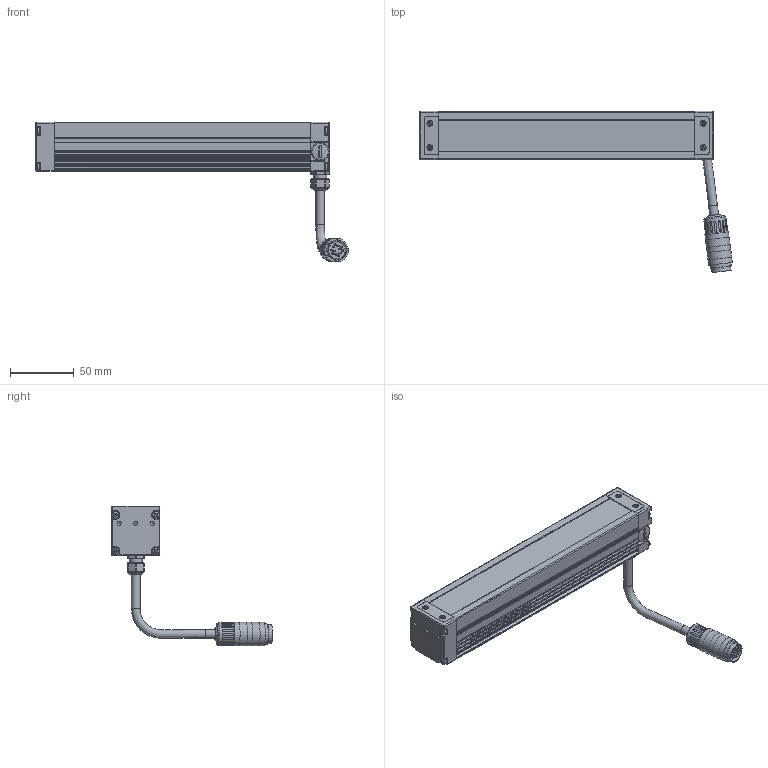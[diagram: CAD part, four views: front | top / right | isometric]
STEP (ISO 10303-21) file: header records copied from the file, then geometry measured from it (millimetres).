
FILE_DESCRIPTION(/* description */ (''),/* implementation_level */ '2;1');
FILE_NAME(/* name */ 'LBHP200',/* time_stamp */ '2025-01-14T08:03:45+01:00',/* author */ (''),/* organization */ ('iiM AG'),/* preprocessor_version */ 'ST-DEVELOPER v16.7',/* originating_system */ 'DEX',/* authorisation */ $);
FILE_SCHEMA (('AUTOMOTIVE_DESIGN {1 0 10303 214 3 1 1}'));
Length unit declared in the file: millimetre
Products named in the file (1): step export
Bounding box: 244.79 x 126.2 x 109.58 mm (x, y, z)
Volume: 309226 mm3; surface area: 72753.5 mm2
Topology: 2 solids, 2 shells, 882 faces, 2334 edges, 1476 vertices
Faces by surface type: cylinder 368, plane 336, cone 138, sphere 21, torus 16, bspline 3
Full cylindrical faces by diameter (mm): 1.001 x12, 2.693 x4, 3 x2, 3.1 x4, 3.242 x6, 3.8 x8, 5.6 x8, 6 x8, 6.8 x2, 8.008 x1, 10 x1, 11 x1, 12.9 x2, 14 x1, 15.015 x1, 16.016 x1, 17.518 x1, 18.519 x3, 18.619 x2
Entity records: 32582 total; most frequent: CARTESIAN_POINT 6224, ORIENTED_EDGE 4118, DIRECTION 4048, EDGE_CURVE 2059, AXIS2_PLACEMENT_3D 1523, VERTEX_POINT 1383, FACE_BOUND 1100, EDGE_LOOP 1086
